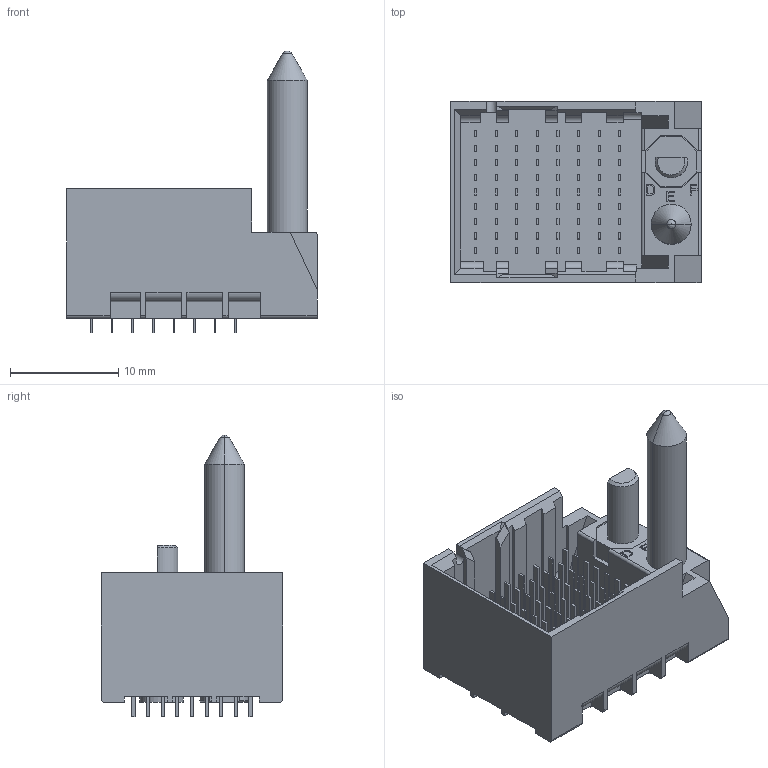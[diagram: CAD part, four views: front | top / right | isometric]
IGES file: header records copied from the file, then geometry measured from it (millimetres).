
Start section:  PTC IGES file: c-1-2057759-1-b-3d.igs
Global section: file name: c-1-2057759-1-b-3d.igs; native system: Creo Parametric by PTC Inc.; preprocessor: 2015200; author: workeradm; organization: Unknown; units: millimetre
Bounding box: 23.08 x 16.7 x 26 mm (x, y, z)
Surface area: 3152.2 mm2 (no closed solid volume)
Topology: 0 solids, 0 shells, 974 faces, 4894 edges, 4894 vertices
Faces by surface type: bspline 925, revolution 49
